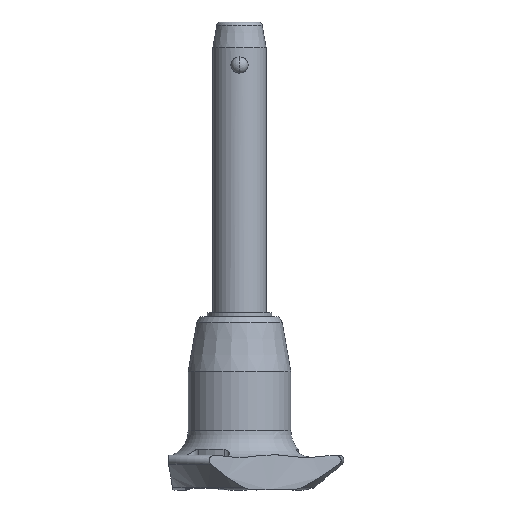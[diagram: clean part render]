
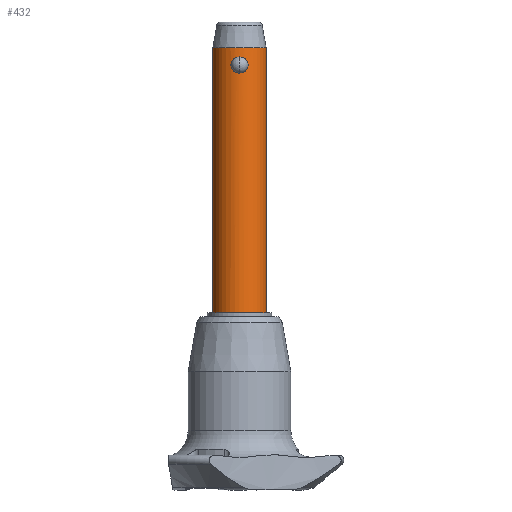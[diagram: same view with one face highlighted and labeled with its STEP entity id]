
A CAD part, front view. The second image highlights one B-rep face of the part: STEP entity #432.
In plain terms, the highlighted cylindrical face has radius 5 mm (diameter 10 mm), a partial arc.
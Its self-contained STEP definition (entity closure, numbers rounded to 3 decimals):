
#4 = DIRECTION ( 'NONE',  ( 0., 0., 1. ) ) ;
#18 = CARTESIAN_POINT ( 'NONE',  ( 0., -5., 3.033 ) ) ;
#64 = DIRECTION ( 'NONE',  ( 1., 0., 0. ) ) ;
#148 = VERTEX_POINT ( 'NONE', #1885 ) ;
#173 = AXIS2_PLACEMENT_3D ( 'NONE', #1134, #1972, #64 ) ;
#183 = AXIS2_PLACEMENT_3D ( 'NONE', #1822, #1810, #2661 ) ;
#190 = CARTESIAN_POINT ( 'NONE',  ( 1.384, -4.805, 0.735 ) ) ;
#212 = CARTESIAN_POINT ( 'NONE',  ( 0., 0., -45. ) ) ;
#216 = CARTESIAN_POINT ( 'NONE',  ( 1.519, -4.764, 2.021 ) ) ;
#236 = CARTESIAN_POINT ( 'NONE',  ( 1.047, -4.89, 0.356 ) ) ;
#281 = FACE_OUTER_BOUND ( 'NONE', #1193, .T. ) ;
#300 = CARTESIAN_POINT ( 'NONE',  ( -0.699, -4.952, 0.145 ) ) ;
#365 = CARTESIAN_POINT ( 'NONE',  ( -0.792, -4.938, 0.19 ) ) ;
#399 = CARTESIAN_POINT ( 'NONE',  ( 0.412, -4.987, 0.037 ) ) ;
#427 = CARTESIAN_POINT ( 'NONE',  ( 0.792, -4.938, 0.19 ) ) ;
#432 = ADVANCED_FACE ( 'NONE', ( #281, #709 ), #1556, .T. ) ;
#439 = CARTESIAN_POINT ( 'NONE',  ( -0.208, -5., 3.033 ) ) ;
#482 = B_SPLINE_CURVE_WITH_KNOTS ( 'NONE', 3,
 ( #18, #439, #931, #2362, #2571, #1553, #2345, #1767, #2614, #662, #706, #1579, #1373, #574, #1153, #2693, #959, #1383, #2210, #2198, #525, #365, #300, #723, #2630, #1168 ),
 .UNSPECIFIED., .F., .F.,
 ( 4, 2, 2, 2, 2, 2, 2, 2, 2, 2, 2, 2, 4 ),
 ( 0., 0.001, 0.001, 0.001, 0.002, 0.002, 0.002, 0.003, 0.003, 0.004, 0.004, 0.004, 0.005 ),
 .UNSPECIFIED. ) ;
#525 = CARTESIAN_POINT ( 'NONE',  ( -0.966, -4.907, 0.296 ) ) ;
#568 = VERTEX_POINT ( 'NONE', #2417 ) ;
#573 = ORIENTED_EDGE ( 'NONE', *, *, #2441, .F. ) ;
#574 = CARTESIAN_POINT ( 'NONE',  ( -1.604, -4.736, 1.416 ) ) ;
#662 = CARTESIAN_POINT ( 'NONE',  ( -1.383, -4.805, 2.299 ) ) ;
#706 = CARTESIAN_POINT ( 'NONE',  ( -1.435, -4.79, 2.209 ) ) ;
#709 = FACE_BOUND ( 'NONE', #2322, .T. ) ;
#723 = CARTESIAN_POINT ( 'NONE',  ( -0.412, -4.987, 0.037 ) ) ;
#785 = ORIENTED_EDGE ( 'NONE', *, *, #1123, .F. ) ;
#825 = CARTESIAN_POINT ( 'NONE',  ( 1.048, -4.889, 2.676 ) ) ;
#851 = CARTESIAN_POINT ( 'NONE',  ( 0., -5., 0. ) ) ;
#861 = DIRECTION ( 'NONE',  ( 0., 0., -1. ) ) ;
#866 = CARTESIAN_POINT ( 'NONE',  ( 0.208, -5., 3.033 ) ) ;
#931 = CARTESIAN_POINT ( 'NONE',  ( -0.412, -4.987, 2.997 ) ) ;
#944 = VECTOR ( 'NONE', #1464, 1000. ) ;
#959 = CARTESIAN_POINT ( 'NONE',  ( -1.519, -4.764, 1.013 ) ) ;
#995 = VERTEX_POINT ( 'NONE', #1393 ) ;
#1030 = CARTESIAN_POINT ( 'NONE',  ( 0.412, -4.987, 2.996 ) ) ;
#1048 = CARTESIAN_POINT ( 'NONE',  ( 1.434, -4.79, 0.822 ) ) ;
#1078 = CARTESIAN_POINT ( 'NONE',  ( 0.792, -4.938, 2.844 ) ) ;
#1094 = CARTESIAN_POINT ( 'NONE',  ( 1.551, -4.753, 1.922 ) ) ;
#1123 = EDGE_CURVE ( 'NONE', #1196, #148, #2103, .T. ) ;
#1134 = CARTESIAN_POINT ( 'NONE',  ( 0., 0., -45. ) ) ;
#1153 = CARTESIAN_POINT ( 'NONE',  ( -1.594, -4.739, 1.312 ) ) ;
#1168 = CARTESIAN_POINT ( 'NONE',  ( 0., -5., 0. ) ) ;
#1185 = VERTEX_POINT ( 'NONE', #1361 ) ;
#1193 = EDGE_LOOP ( 'NONE', ( #573, #2184, #1934, #1629 ) ) ;
#1196 = VERTEX_POINT ( 'NONE', #2199 ) ;
#1241 = VERTEX_POINT ( 'NONE', #2631 ) ;
#1361 = CARTESIAN_POINT ( 'NONE',  ( -5., 0., -45. ) ) ;
#1373 = CARTESIAN_POINT ( 'NONE',  ( -1.604, -4.736, 1.724 ) ) ;
#1383 = CARTESIAN_POINT ( 'NONE',  ( -1.394, -4.802, 0.731 ) ) ;
#1393 = CARTESIAN_POINT ( 'NONE',  ( 5., 0., -45. ) ) ;
#1464 = DIRECTION ( 'NONE',  ( 0., 0., 1. ) ) ;
#1498 = CARTESIAN_POINT ( 'NONE',  ( 1.604, -4.736, 1.619 ) ) ;
#1511 = CARTESIAN_POINT ( 'NONE',  ( 0., -5., 3.033 ) ) ;
#1553 = CARTESIAN_POINT ( 'NONE',  ( -0.965, -4.907, 2.738 ) ) ;
#1556 = CYLINDRICAL_SURFACE ( 'NONE', #173, 5. ) ;
#1564 = LINE ( 'NONE', #2344, #2265 ) ;
#1579 = CARTESIAN_POINT ( 'NONE',  ( -1.56, -4.751, 1.931 ) ) ;
#1618 = CIRCLE ( 'NONE', #2681, 5. ) ;
#1629 = ORIENTED_EDGE ( 'NONE', *, *, #2158, .T. ) ;
#1700 = CARTESIAN_POINT ( 'NONE',  ( 1.604, -4.736, 1.308 ) ) ;
#1767 = CARTESIAN_POINT ( 'NONE',  ( -1.197, -4.855, 2.539 ) ) ;
#1810 = DIRECTION ( 'NONE',  ( 0., 0., -1. ) ) ;
#1822 = CARTESIAN_POINT ( 'NONE',  ( 0., 0., 4.8 ) ) ;
#1885 = CARTESIAN_POINT ( 'NONE',  ( 0., -5., 3.033 ) ) ;
#1887 = CARTESIAN_POINT ( 'NONE',  ( 1.272, -4.838, 2.47 ) ) ;
#1894 = CARTESIAN_POINT ( 'NONE',  ( -5., 0., -45. ) ) ;
#1914 = CARTESIAN_POINT ( 'NONE',  ( 0.7, -4.952, 2.888 ) ) ;
#1929 = CARTESIAN_POINT ( 'NONE',  ( 1.56, -4.751, 1.103 ) ) ;
#1934 = ORIENTED_EDGE ( 'NONE', *, *, #2302, .T. ) ;
#1966 = DIRECTION ( 'NONE',  ( 1., 0., 0. ) ) ;
#1972 = DIRECTION ( 'NONE',  ( 0., 0., 1. ) ) ;
#1980 = EDGE_CURVE ( 'NONE', #148, #1196, #482, .T. ) ;
#2088 = CARTESIAN_POINT ( 'NONE',  ( 1.196, -4.855, 0.493 ) ) ;
#2090 = ORIENTED_EDGE ( 'NONE', *, *, #1980, .F. ) ;
#2100 = CARTESIAN_POINT ( 'NONE',  ( 0.205, -5., 0. ) ) ;
#2103 = B_SPLINE_CURVE_WITH_KNOTS ( 'NONE', 3,
 ( #851, #2100, #399, #2304, #427, #2333, #236, #2088, #2113, #190, #1048, #1929, #1700, #1498, #2545, #1094, #216, #2145, #1887, #825, #2727, #1078, #1914, #1030, #866, #1511 ),
 .UNSPECIFIED., .F., .F.,
 ( 4, 2, 2, 2, 2, 2, 2, 2, 2, 2, 2, 2, 4 ),
 ( 0.005, 0.006, 0.006, 0.006, 0.006, 0.007, 0.007, 0.008, 0.008, 0.009, 0.009, 0.009, 0.01 ),
 .UNSPECIFIED. ) ;
#2113 = CARTESIAN_POINT ( 'NONE',  ( 1.265, -4.838, 0.57 ) ) ;
#2145 = CARTESIAN_POINT ( 'NONE',  ( 1.395, -4.802, 2.301 ) ) ;
#2158 = EDGE_CURVE ( 'NONE', #1241, #568, #2543, .T. ) ;
#2184 = ORIENTED_EDGE ( 'NONE', *, *, #2599, .F. ) ;
#2198 = CARTESIAN_POINT ( 'NONE',  ( -1.047, -4.89, 0.357 ) ) ;
#2199 = CARTESIAN_POINT ( 'NONE',  ( 0., -5., 0. ) ) ;
#2210 = CARTESIAN_POINT ( 'NONE',  ( -1.272, -4.838, 0.564 ) ) ;
#2265 = VECTOR ( 'NONE', #4, 1000. ) ;
#2302 = EDGE_CURVE ( 'NONE', #995, #1241, #1564, .T. ) ;
#2304 = CARTESIAN_POINT ( 'NONE',  ( 0.699, -4.952, 0.144 ) ) ;
#2322 = EDGE_LOOP ( 'NONE', ( #2090, #785 ) ) ;
#2333 = CARTESIAN_POINT ( 'NONE',  ( 0.966, -4.907, 0.296 ) ) ;
#2344 = CARTESIAN_POINT ( 'NONE',  ( 5., 0., -45. ) ) ;
#2345 = CARTESIAN_POINT ( 'NONE',  ( -1.047, -4.89, 2.676 ) ) ;
#2362 = CARTESIAN_POINT ( 'NONE',  ( -0.7, -4.952, 2.888 ) ) ;
#2417 = CARTESIAN_POINT ( 'NONE',  ( -5., 0., 4.8 ) ) ;
#2441 = EDGE_CURVE ( 'NONE', #1185, #568, #2539, .T. ) ;
#2539 = LINE ( 'NONE', #1894, #944 ) ;
#2543 = CIRCLE ( 'NONE', #183, 5. ) ;
#2545 = CARTESIAN_POINT ( 'NONE',  ( 1.594, -4.739, 1.721 ) ) ;
#2571 = CARTESIAN_POINT ( 'NONE',  ( -0.791, -4.938, 2.844 ) ) ;
#2599 = EDGE_CURVE ( 'NONE', #995, #1185, #1618, .T. ) ;
#2614 = CARTESIAN_POINT ( 'NONE',  ( -1.264, -4.838, 2.464 ) ) ;
#2630 = CARTESIAN_POINT ( 'NONE',  ( -0.205, -5., 0. ) ) ;
#2631 = CARTESIAN_POINT ( 'NONE',  ( 5., 0., 4.8 ) ) ;
#2661 = DIRECTION ( 'NONE',  ( 1., 0., 0. ) ) ;
#2681 = AXIS2_PLACEMENT_3D ( 'NONE', #212, #861, #1966 ) ;
#2693 = CARTESIAN_POINT ( 'NONE',  ( -1.551, -4.753, 1.11 ) ) ;
#2727 = CARTESIAN_POINT ( 'NONE',  ( 0.966, -4.907, 2.738 ) ) ;
